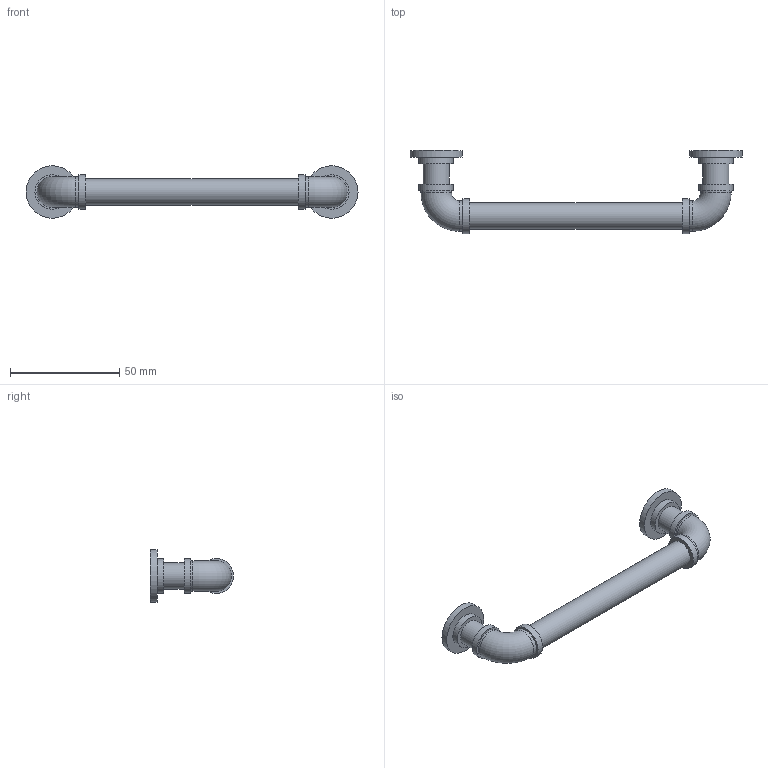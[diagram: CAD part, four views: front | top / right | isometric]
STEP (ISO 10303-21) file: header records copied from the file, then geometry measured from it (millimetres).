
FILE_DESCRIPTION( ( 'STEP AP214' ), '1' );
FILE_NAME( 'D:/Yug/2020/ProDecor_2020/QC/9266562.stp', '2020-06-01T11:59:24', ( '' ), ( '' ), ' ', 'PARTsolutions', ' ' );
FILE_SCHEMA( ( 'AUTOMOTIVE_DESIGN { 1 0 10303 214 1 1 1 1 }' ) );
Length unit declared in the file: millimetre
Products named in the file (1): _9266562
Bounding box: 152 x 38 x 24 mm (x, y, z)
Volume: 25231.2 mm3; surface area: 9705 mm2
Topology: 1 solids, 1 shells, 35 faces, 53 edges, 34 vertices
Faces by surface type: cylinder 17, plane 16, torus 2
Full cylindrical faces by diameter (mm): 3.25 x2, 12 x3, 14 x4, 15.8 x4, 16 x2, 24 x2
Entity records: 990 total; most frequent: DIRECTION 140, CARTESIAN_POINT 104, AXIS2_PLACEMENT_3D 70, EDGE_LOOP 68, ORIENTED_EDGE 68, FACE_OUTER_BOUND 54, STYLED_ITEM 35, PRESENTATION_STYLE_ASSIGNMENT 35
